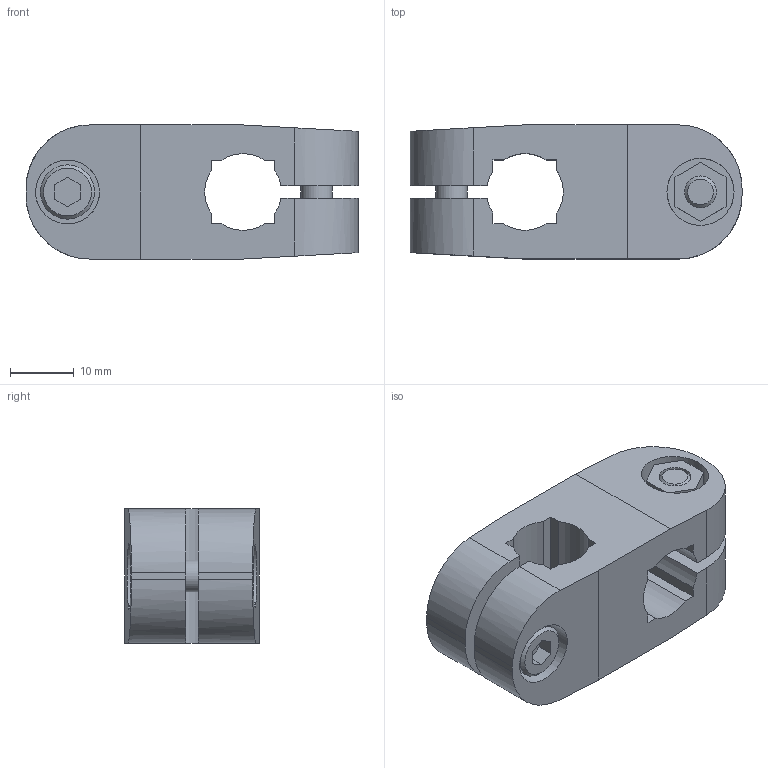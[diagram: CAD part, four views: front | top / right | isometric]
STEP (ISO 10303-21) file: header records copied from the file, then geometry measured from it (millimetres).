
FILE_DESCRIPTION( ( 'STEP AP203' ), '1' );
FILE_NAME( 'C:/Temp/Ganter_Step_05_03_2020/data/3_7/gn174/Two-way connector GN 174-B12-B12.stp', '2020-03-12T14:39:14', ( 'License CC BY-ND 4.0' ), ( 'CADENAS' ), ' ', 'PARTsolutions', ' ' );
FILE_SCHEMA( ( 'CONFIG_CONTROL_DESIGN' ) );
Length unit declared in the file: millimetre
Products named in the file (1): _Two-way connector GN 174-B12-B12
Bounding box: 52 x 21 x 21 mm (x, y, z)
Volume: 14079.3 mm3; surface area: 7781.4 mm2
Topology: 1 solids, 1 shells, 100 faces, 259 edges, 173 vertices
Faces by surface type: plane 68, cylinder 28, cone 4
Full cylindrical faces by diameter (mm): 5 x4, 8.5 x2, 10 x2, 10.5 x2
Entity records: 2988 total; most frequent: CARTESIAN_POINT 509, DIRECTION 502, ORIENTED_EDGE 480, EDGE_CURVE 240, LINE 180, VECTOR 180, VERTEX_POINT 168, AXIS2_PLACEMENT_3D 161
